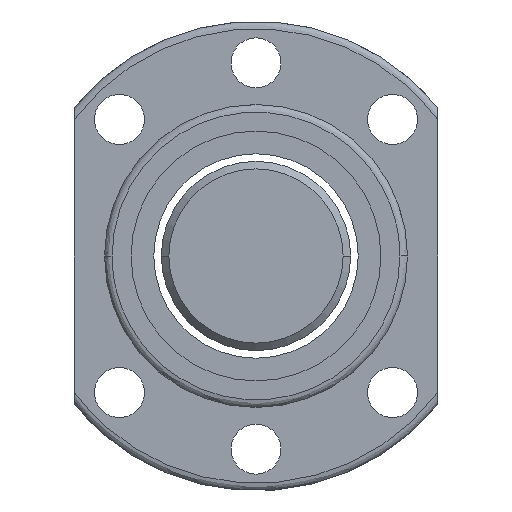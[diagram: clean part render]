
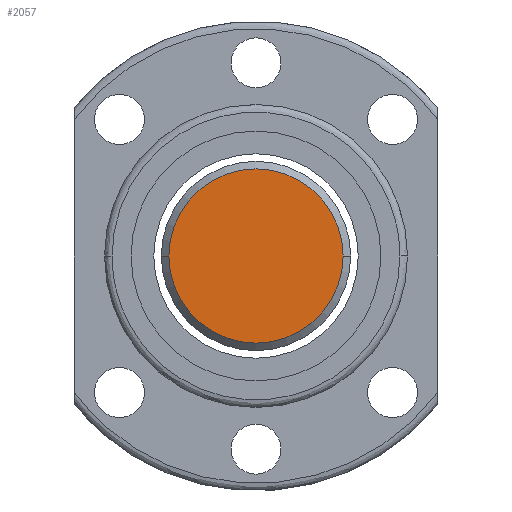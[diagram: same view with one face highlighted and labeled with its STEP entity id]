
A CAD part, left-side view. The second image highlights one B-rep face of the part: STEP entity #2057.
In plain terms, the highlighted planar face has unit normal (-1, 0, 0).
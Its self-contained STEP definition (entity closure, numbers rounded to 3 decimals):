
#142 = CARTESIAN_POINT ( 'NONE',  ( -185., 11.5, 0. ) ) ;
#939 = CARTESIAN_POINT ( 'NONE',  ( -185., -11.5, 0. ) ) ;
#970 = CIRCLE ( 'NONE', #1039, 11.5 ) ;
#1036 = DIRECTION ( 'NONE',  ( 0., 1., 0. ) ) ;
#1037 = DIRECTION ( 'NONE',  ( 1., 0., 0. ) ) ;
#1038 = CARTESIAN_POINT ( 'NONE',  ( -185., 0., 0. ) ) ;
#1039 = AXIS2_PLACEMENT_3D ( 'NONE', #1038, #1037, #1036 ) ;
#1045 = PLANE ( 'NONE',  #1082 ) ;
#1051 = FACE_OUTER_BOUND ( 'NONE', #2025, .T. ) ;
#1068 = CARTESIAN_POINT ( 'NONE',  ( -185., 6.25, 0. ) ) ;
#1080 = DIRECTION ( 'NONE',  ( 0., -1., 0. ) ) ;
#1081 = DIRECTION ( 'NONE',  ( -1., 0., 0. ) ) ;
#1082 = AXIS2_PLACEMENT_3D ( 'NONE', #1068, #1081, #1080 ) ;
#1173 = DIRECTION ( 'NONE',  ( 0., 1., 0. ) ) ;
#1174 = DIRECTION ( 'NONE',  ( 1., 0., 0. ) ) ;
#1175 = CARTESIAN_POINT ( 'NONE',  ( -185., 0., 0. ) ) ;
#1181 = CIRCLE ( 'NONE', #1186, 11.5 ) ;
#1186 = AXIS2_PLACEMENT_3D ( 'NONE', #1175, #1174, #1173 ) ;
#2011 = EDGE_CURVE ( 'NONE', #2036, #2256, #970, .T. ) ;
#2025 = EDGE_LOOP ( 'NONE', ( #2027, #2041 ) ) ;
#2027 = ORIENTED_EDGE ( 'NONE', *, *, #2105, .F. ) ;
#2036 = VERTEX_POINT ( 'NONE', #939 ) ;
#2041 = ORIENTED_EDGE ( 'NONE', *, *, #2011, .F. ) ;
#2057 = ADVANCED_FACE ( 'NONE', ( #1051 ), #1045, .T. ) ;
#2105 = EDGE_CURVE ( 'NONE', #2256, #2036, #1181, .T. ) ;
#2256 = VERTEX_POINT ( 'NONE', #142 ) ;
